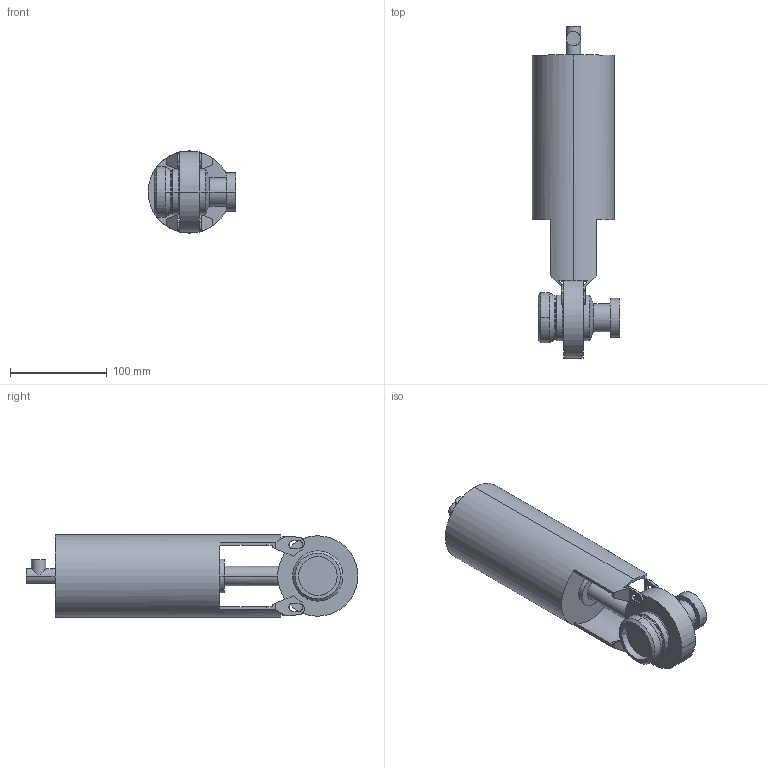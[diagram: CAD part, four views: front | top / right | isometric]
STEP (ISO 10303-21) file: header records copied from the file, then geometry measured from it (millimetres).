
FILE_DESCRIPTION(('Creo Elements/Direct Modeling STEP Export'),'2;1');
FILE_NAME('SV1-25-FZ-1K-2G.stp','2013-02-15T12:16:41',(''),(''),'Creo Elements/Direct Modeling STEP processor for AP214 (Solid Model)','Creo Elements/Direct Modeling 17.0D 15-Jul-2011 (C) Parametric Technology GmbH','');
FILE_SCHEMA(('AUTOMOTIVE_DESIGN { 1 0 10303 214 1 1 1 1 }'));
Length unit declared in the file: millimetre
Products named in the file (2): SV1-25-FZ-1K2G
Assembly tree (1 placements, depth 2):
  SV1-25-FZ-1K2G
    SV1-25-FZ-1K2G
Bounding box: 90.5 x 342.93 x 85 mm (x, y, z)
Volume: 1203071.1 mm3; surface area: 105275.6 mm2
Topology: 1 solids, 1 shells, 132 faces, 373 edges, 238 vertices
Faces by surface type: plane 75, cylinder 41, torus 8, cone 8
Entity records: 4544 total; most frequent: CARTESIAN_POINT 1225, ORIENTED_EDGE 746, DIRECTION 655, EDGE_CURVE 373, VERTEX_POINT 238, AXIS2_PLACEMENT_3D 234, VECTOR 187, LINE 187
